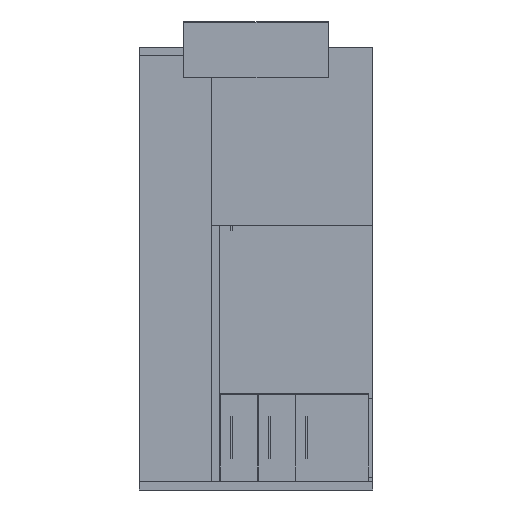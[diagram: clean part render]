
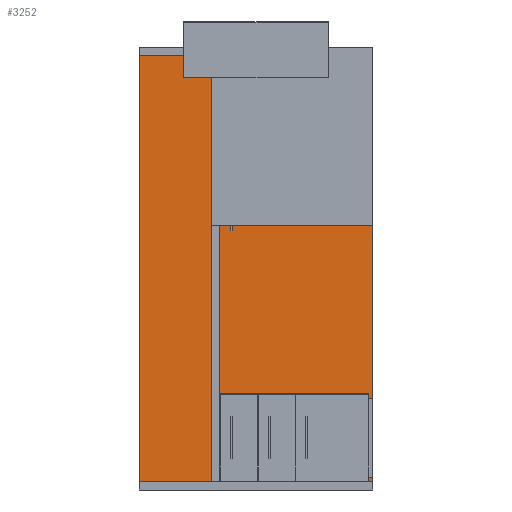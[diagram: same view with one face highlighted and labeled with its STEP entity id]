
A CAD part, left-side view. The second image highlights one B-rep face of the part: STEP entity #3252.
In plain terms, the highlighted planar face has unit normal (-1, 0, 0).
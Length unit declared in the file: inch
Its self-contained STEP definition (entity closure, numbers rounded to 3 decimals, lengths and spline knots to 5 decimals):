
#654=FACE_OUTER_BOUND('',#824,.T.);
#824=EDGE_LOOP('',(#2368,#2369,#2370,#2371));
#1008=LINE('',#4582,#1374);
#1009=LINE('',#4585,#1375);
#1010=LINE('',#4587,#1376);
#1011=LINE('',#4588,#1377);
#1374=VECTOR('',#3826,0.3937);
#1375=VECTOR('',#3829,0.3937);
#1376=VECTOR('',#3830,0.3937);
#1377=VECTOR('',#3831,0.3937);
#1734=VERTEX_POINT('',#4578);
#1735=VERTEX_POINT('',#4580);
#1736=VERTEX_POINT('',#4584);
#1737=VERTEX_POINT('',#4586);
#1984=EDGE_CURVE('',#1734,#1735,#1008,.T.);
#1985=EDGE_CURVE('',#1736,#1734,#1009,.T.);
#1986=EDGE_CURVE('',#1737,#1735,#1010,.T.);
#1987=EDGE_CURVE('',#1736,#1737,#1011,.T.);
#2368=ORIENTED_EDGE('',*,*,#1985,.T.);
#2369=ORIENTED_EDGE('',*,*,#1984,.T.);
#2370=ORIENTED_EDGE('',*,*,#1986,.F.);
#2371=ORIENTED_EDGE('',*,*,#1987,.F.);
#3084=PLANE('',#3605);
#3252=ADVANCED_FACE('',(#654),#3084,.T.);
#3605=AXIS2_PLACEMENT_3D('',#4583,#3827,#3828);
#3826=DIRECTION('',(0.,1.,0.));
#3827=DIRECTION('center_axis',(-1.,0.,0.));
#3828=DIRECTION('ref_axis',(0.,0.,1.));
#3829=DIRECTION('',(0.,0.,1.));
#3830=DIRECTION('',(0.,0.,1.));
#3831=DIRECTION('',(0.,1.,0.));
#4578=CARTESIAN_POINT('',(-1.5,0.,-1.5));
#4580=CARTESIAN_POINT('',(-1.5,42.,-1.5));
#4582=CARTESIAN_POINT('',(-1.5,0.,-1.5));
#4583=CARTESIAN_POINT('Origin',(-1.5,0.,-78.));
#4584=CARTESIAN_POINT('',(-1.5,0.,-78.));
#4585=CARTESIAN_POINT('',(-1.5,0.,-78.));
#4586=CARTESIAN_POINT('',(-1.5,42.,-78.));
#4587=CARTESIAN_POINT('',(-1.5,42.,-78.));
#4588=CARTESIAN_POINT('',(-1.5,0.,-78.));
